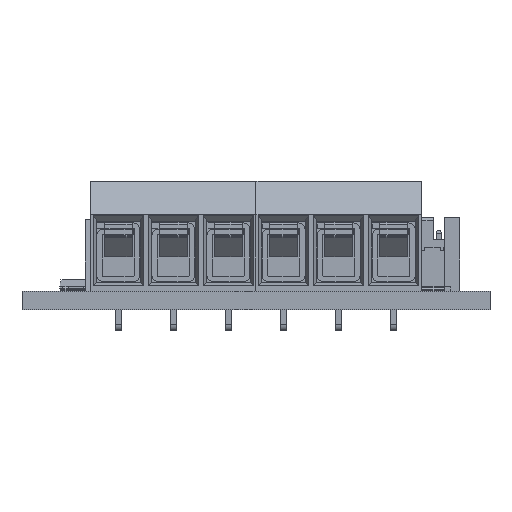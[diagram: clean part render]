
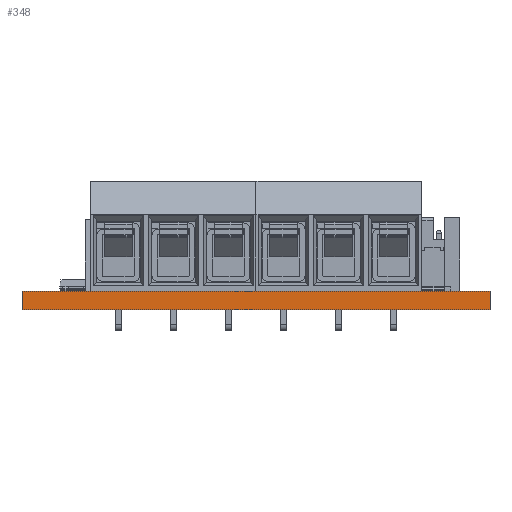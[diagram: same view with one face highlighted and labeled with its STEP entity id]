
A CAD part, front view. The second image highlights one B-rep face of the part: STEP entity #348.
In plain terms, the highlighted planar face has unit normal (0, -1, 0).
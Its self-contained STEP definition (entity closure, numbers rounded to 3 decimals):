
#348 = ADVANCED_FACE('',(#349),#383,.F.);
#349 = FACE_BOUND('',#350,.F.);
#350 = EDGE_LOOP('',(#351,#361,#369,#377));
#351 = ORIENTED_EDGE('',*,*,#352,.T.);
#352 = EDGE_CURVE('',#353,#355,#357,.T.);
#353 = VERTEX_POINT('',#354);
#354 = CARTESIAN_POINT('',(0.,0.,0.));
#355 = VERTEX_POINT('',#356);
#356 = CARTESIAN_POINT('',(0.,0.,1.691));
#357 = LINE('',#358,#359);
#358 = CARTESIAN_POINT('',(0.,0.,0.));
#359 = VECTOR('',#360,1.);
#360 = DIRECTION('',(0.,0.,1.));
#361 = ORIENTED_EDGE('',*,*,#362,.T.);
#362 = EDGE_CURVE('',#355,#363,#365,.T.);
#363 = VERTEX_POINT('',#364);
#364 = CARTESIAN_POINT('',(42.5,0.,1.691));
#365 = LINE('',#366,#367);
#366 = CARTESIAN_POINT('',(0.,0.,1.691));
#367 = VECTOR('',#368,1.);
#368 = DIRECTION('',(1.,0.,0.));
#369 = ORIENTED_EDGE('',*,*,#370,.F.);
#370 = EDGE_CURVE('',#371,#363,#373,.T.);
#371 = VERTEX_POINT('',#372);
#372 = CARTESIAN_POINT('',(42.5,0.,0.));
#373 = LINE('',#374,#375);
#374 = CARTESIAN_POINT('',(42.5,0.,0.));
#375 = VECTOR('',#376,1.);
#376 = DIRECTION('',(0.,0.,1.));
#377 = ORIENTED_EDGE('',*,*,#378,.F.);
#378 = EDGE_CURVE('',#353,#371,#379,.T.);
#379 = LINE('',#380,#381);
#380 = CARTESIAN_POINT('',(0.,0.,0.));
#381 = VECTOR('',#382,1.);
#382 = DIRECTION('',(1.,0.,0.));
#383 = PLANE('',#384);
#384 = AXIS2_PLACEMENT_3D('',#385,#386,#387);
#385 = CARTESIAN_POINT('',(0.,0.,0.));
#386 = DIRECTION('',(0.,1.,0.));
#387 = DIRECTION('',(1.,0.,0.));
